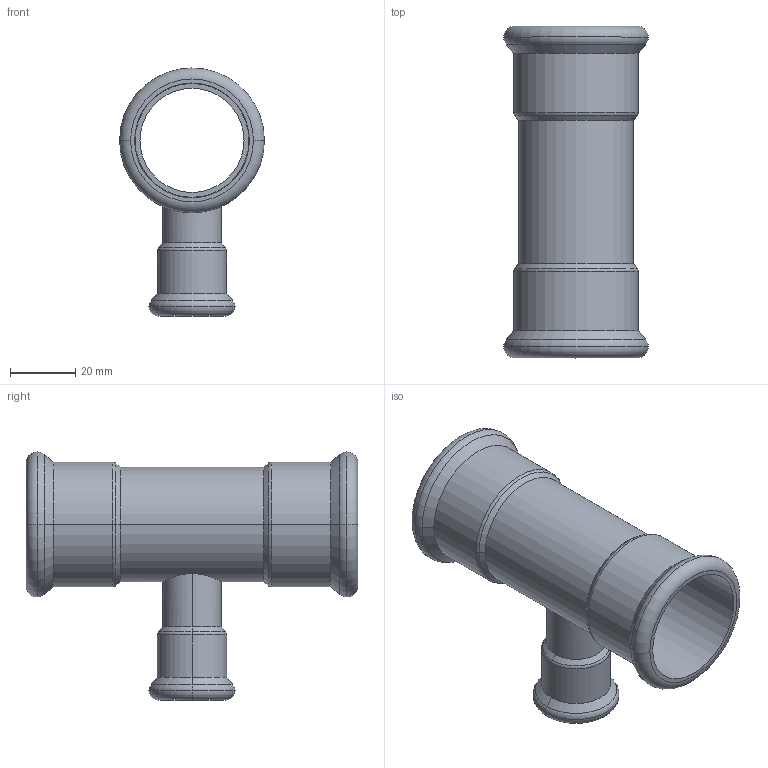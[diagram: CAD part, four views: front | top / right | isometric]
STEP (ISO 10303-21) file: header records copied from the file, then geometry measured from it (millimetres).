
FILE_DESCRIPTION(('CoCreate Modeling STEP Export'),'2;1');
FILE_NAME('C1415 35x18x35.stp','2014-11-11T17:11:40',(''),(''),'CoCreate Modeling STEP processor for AP214 (Solid Model)','CoCreate Modeling 17.00A 17-Jun-2010 (C) Parametric Technology GmbH','');
FILE_SCHEMA(('AUTOMOTIVE_DESIGN { 1 0 10303 214 1 1 1 1 }'));
Length unit declared in the file: millimetre
Products named in the file (2): C1415_35x18x35
Assembly tree (1 placements, depth 2):
  C1415_35x18x35
    C1415_35x18x35
Bounding box: 44.55 x 102 x 76.28 mm (x, y, z)
Volume: 26687.5 mm3; surface area: 29345 mm2
Topology: 1 solids, 1 shells, 66 faces, 133 edges, 77 vertices
Faces by surface type: cylinder 27, torus 18, cone 12, plane 9
Entity records: 2435 total; most frequent: CARTESIAN_POINT 1212, ORIENTED_EDGE 266, DIRECTION 220, EDGE_CURVE 133, AXIS2_PLACEMENT_3D 91, VERTEX_POINT 77, EDGE_LOOP 76, FACE_OUTER_BOUND 66
